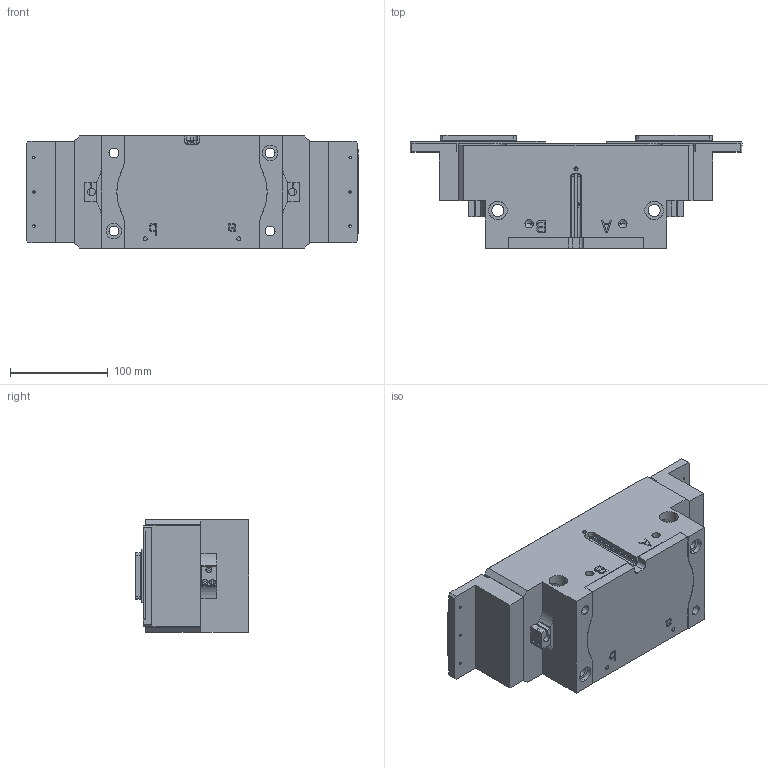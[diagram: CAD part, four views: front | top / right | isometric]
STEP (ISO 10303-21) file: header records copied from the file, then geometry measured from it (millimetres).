
FILE_DESCRIPTION (( 'STEP AP214' ), '1' );
FILE_NAME ('FPT 240A-1-SD.STEP', '2021-09-18T08:15:35', ( 'DEEP' ), ( 'Microsoft' ), 'SwSTEP 2.0', 'SolidWorks 2016', '' );
FILE_SCHEMA (( 'AUTOMOTIVE_DESIGN' ));
Length unit declared in the file: millimetre
Products named in the file (25): FPT240A-1-SD-004; FPT 240A-1-002; FPT240A-1-SD-003; FPT 240A-1-003; FPT240A-1-SD-002; FPT240A-1-SD-001; FPT 240A-1-004; FPT 240A-1-005; FPT 240A-1-001; FPT 240A-1-SD; FPT240A-11-sd
Assembly tree (15 placements, depth 3):
  FPT240A-1-SD-004
  FPT240A-1-SD-003
  FPT240A-1-SD-002
  FPT240A-1-SD-001
  FPT240A-1-SD-004
Bounding box: 340 x 116 x 115 mm (x, y, z)
Volume: 2783870.7 mm3; surface area: 415863.2 mm2
Topology: 14 solids, 14 shells, 794 faces, 2106 edges, 1363 vertices
Faces by surface type: plane 471, cylinder 245, cone 72, bspline 6
Entity records: 23346 total; most frequent: CARTESIAN_POINT 4497, DIRECTION 3402, ORIENTED_EDGE 3380, EDGE_CURVE 1690, LINE 1218, VECTOR 1218, VERTEX_POINT 1113, AXIS2_PLACEMENT_3D 1092
